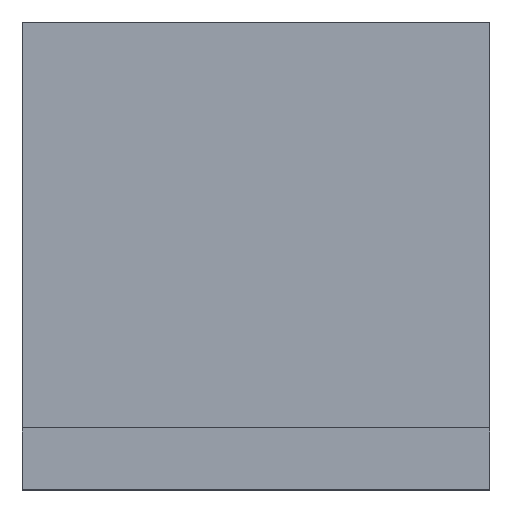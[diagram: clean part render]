
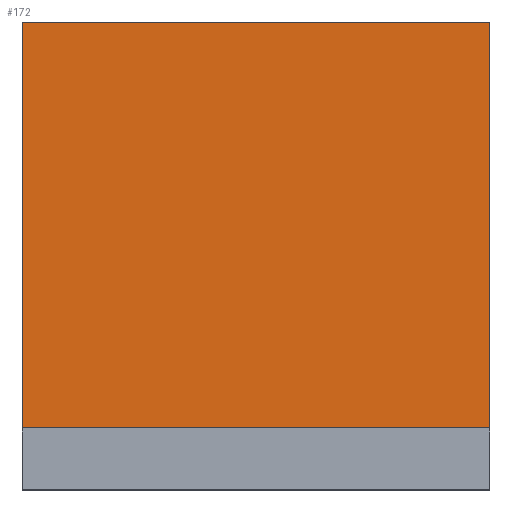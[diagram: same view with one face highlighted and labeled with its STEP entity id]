
A CAD part, top view. The second image highlights one B-rep face of the part: STEP entity #172.
In plain terms, the highlighted planar face has unit normal (0, 0, 1).
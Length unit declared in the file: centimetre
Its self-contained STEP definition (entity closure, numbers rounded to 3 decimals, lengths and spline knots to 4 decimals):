
#18 = FACE_OUTER_BOUND ( 'NONE', #447, .T. ) ;
#21 = DIRECTION ( 'NONE',  ( -1., 0., 0. ) ) ;
#24 = CARTESIAN_POINT ( 'NONE',  ( 1000., 1000., 1000. ) ) ;
#70 = ORIENTED_EDGE ( 'NONE', *, *, #127, .T. ) ;
#85 = VERTEX_POINT ( 'NONE', #324 ) ;
#89 = VERTEX_POINT ( 'NONE', #436 ) ;
#91 = VECTOR ( 'NONE', #21, 100. ) ;
#101 = DIRECTION ( 'NONE',  ( 1., 0., 0. ) ) ;
#110 = DIRECTION ( 'NONE',  ( 0., 1., 0. ) ) ;
#127 = EDGE_CURVE ( 'NONE', #343, #89, #440, .T. ) ;
#135 = VECTOR ( 'NONE', #110, 100. ) ;
#137 = VECTOR ( 'NONE', #101, 100. ) ;
#140 = AXIS2_PLACEMENT_3D ( 'NONE', #519, #147, #280 ) ;
#147 = DIRECTION ( 'NONE',  ( 0., 0., 1. ) ) ;
#172 = ADVANCED_FACE ( 'NONE', ( #18 ), #195, .T. ) ;
#195 = PLANE ( 'NONE',  #140 ) ;
#203 = ORIENTED_EDGE ( 'NONE', *, *, #362, .T. ) ;
#207 = ORIENTED_EDGE ( 'NONE', *, *, #346, .T. ) ;
#211 = EDGE_CURVE ( 'NONE', #85, #343, #413, .T. ) ;
#250 = ORIENTED_EDGE ( 'NONE', *, *, #211, .T. ) ;
#280 = DIRECTION ( 'NONE',  ( 1., 0., 0. ) ) ;
#324 = CARTESIAN_POINT ( 'NONE',  ( 0., 1000., 1000. ) ) ;
#336 = CARTESIAN_POINT ( 'NONE',  ( 0., 1000., 1000. ) ) ;
#343 = VERTEX_POINT ( 'NONE', #363 ) ;
#346 = EDGE_CURVE ( 'NONE', #89, #489, #443, .T. ) ;
#362 = EDGE_CURVE ( 'NONE', #489, #85, #522, .T. ) ;
#363 = CARTESIAN_POINT ( 'NONE',  ( 0., 131.6375, 1000. ) ) ;
#365 = CARTESIAN_POINT ( 'NONE',  ( 0., 1000., 1000. ) ) ;
#406 = CARTESIAN_POINT ( 'NONE',  ( 0., 131.6375, 1000. ) ) ;
#413 = LINE ( 'NONE', #336, #468 ) ;
#421 = DIRECTION ( 'NONE',  ( 0., -1., 0. ) ) ;
#436 = CARTESIAN_POINT ( 'NONE',  ( 1000., 131.6375, 1000. ) ) ;
#440 = LINE ( 'NONE', #406, #137 ) ;
#443 = LINE ( 'NONE', #518, #135 ) ;
#447 = EDGE_LOOP ( 'NONE', ( #70, #207, #203, #250 ) ) ;
#468 = VECTOR ( 'NONE', #421, 100. ) ;
#489 = VERTEX_POINT ( 'NONE', #24 ) ;
#518 = CARTESIAN_POINT ( 'NONE',  ( 1000., 1000., 1000. ) ) ;
#519 = CARTESIAN_POINT ( 'NONE',  ( 0., 0., 1000. ) ) ;
#522 = LINE ( 'NONE', #365, #91 ) ;
